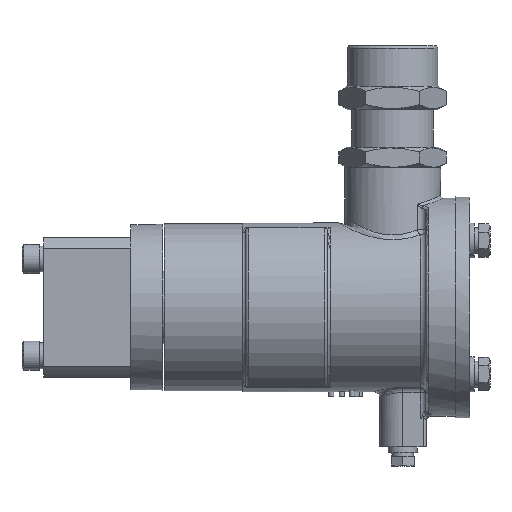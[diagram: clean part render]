
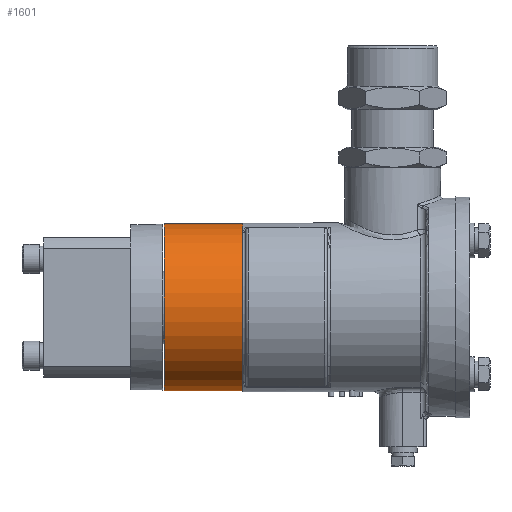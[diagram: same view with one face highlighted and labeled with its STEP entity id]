
A CAD part, front view. The second image highlights one B-rep face of the part: STEP entity #1601.
In plain terms, the highlighted cylindrical face has radius 28.75 mm (diameter 57.5 mm), a full revolution.
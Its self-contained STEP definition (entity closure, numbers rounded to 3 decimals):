
#1601=ADVANCED_FACE('',(#11496,#11498),#11500,.T.);
#11496=FACE_OUTER_BOUND('',#11497,.T.);
#11497=EDGE_LOOP('',(#20428));
#11498=FACE_OUTER_BOUND('',#11499,.T.);
#11499=EDGE_LOOP('',(#20429));
#11500=CYLINDRICAL_SURFACE('',#11501,28.75);
#11501=AXIS2_PLACEMENT_3D('',#11502,#11503,#11504);
#11502=CARTESIAN_POINT('',(55.5,0.,0.));
#11503=DIRECTION('',(-1.,0.,0.));
#11504=DIRECTION('',(0.,0.,1.));
#20428=ORIENTED_EDGE('',*,*,#26819,.T.);
#20429=ORIENTED_EDGE('',*,*,#26754,.F.);
#26754=EDGE_CURVE('',#29732,#29732,#29733,.T.);
#26819=EDGE_CURVE('',#29841,#29841,#29842,.T.);
#29732=VERTEX_POINT('',#36791);
#29733=CIRCLE('',#36792,28.75);
#29841=VERTEX_POINT('',#37041);
#29842=CIRCLE('',#37042,28.75);
#36791=CARTESIAN_POINT('',(28.5,0.,28.75));
#36792=AXIS2_PLACEMENT_3D('',#36793,#36794,#36795);
#36793=CARTESIAN_POINT('',(28.5,0.,0.));
#36794=DIRECTION('',(-1.,0.,0.));
#36795=DIRECTION('',(0.,0.,1.));
#37041=CARTESIAN_POINT('',(55.5,0.,28.75));
#37042=AXIS2_PLACEMENT_3D('',#37043,#37044,#37045);
#37043=CARTESIAN_POINT('',(55.5,0.,0.));
#37044=DIRECTION('',(-1.,0.,0.));
#37045=DIRECTION('',(0.,0.,1.));
